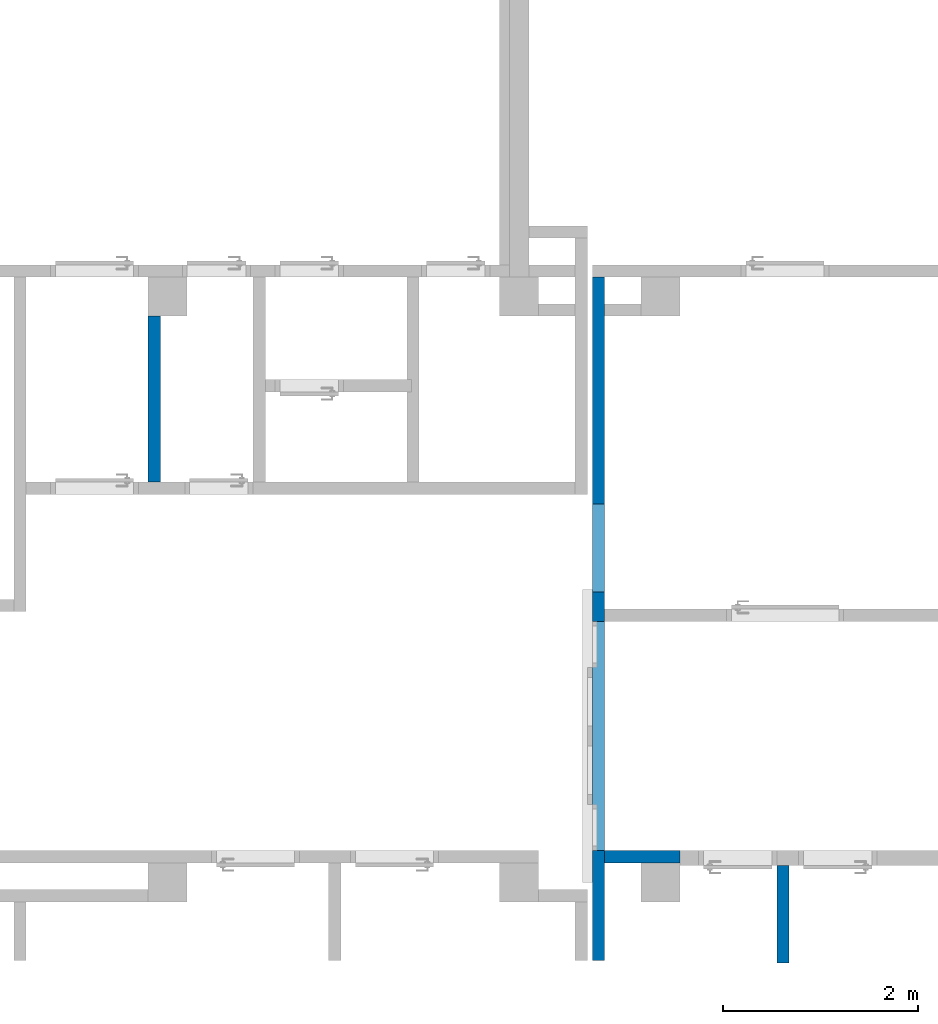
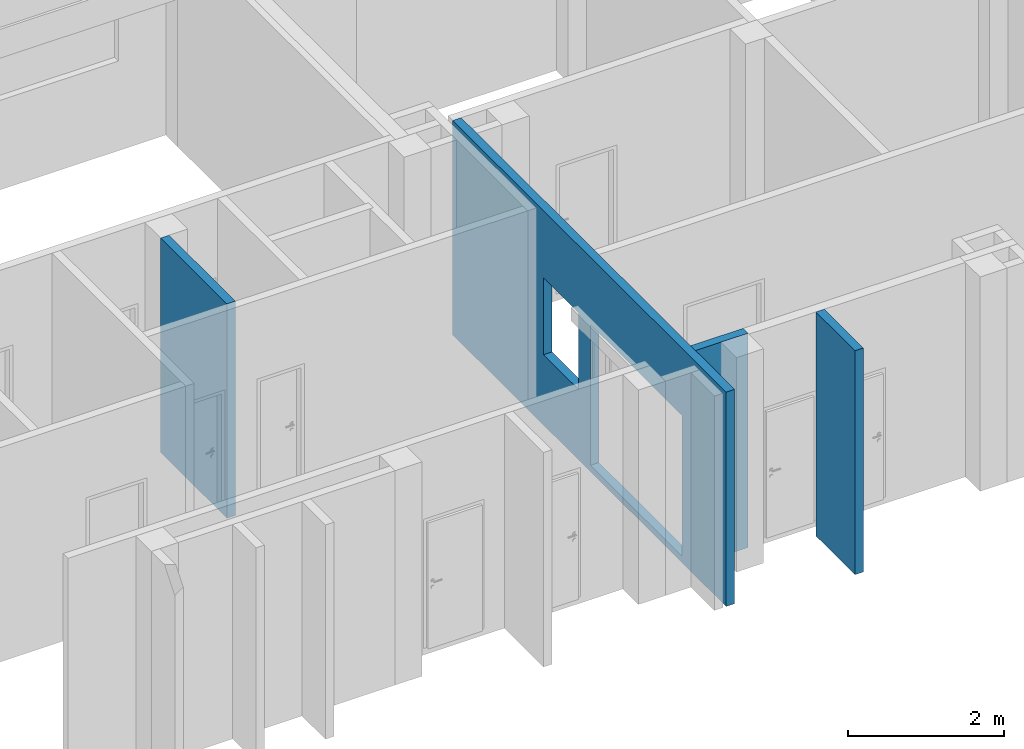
# One storey, part 13 of 37: 4 walls, 2 openings.
"""IFC4 building model written with IfcOpenShell, lengths in metres."""

from ifc_helpers import new_model, entity, si_unit, converted_unit, derived_unit, frame, frame_2d, origin, origin_with_axes, place, context, subcontext, project, spatial, polyline, rectangle, outline, extrude, material, layer, layer_set, layer_usage, element, save


model = new_model("IFC4")

# Units and contexts
model_context = context("Model", 3, precision=1e-05, world=origin())
body_context = subcontext(model_context, "Body", "Model", "MODEL_VIEW")
ifc_project = project(units=[si_unit("LENGTHUNIT", "METRE"), si_unit("AREAUNIT", "SQUARE_METRE"), si_unit("VOLUMEUNIT", "CUBIC_METRE"), si_unit("MASSUNIT", "GRAM", prefix="KILO"), converted_unit("PLANEANGLEUNIT", "DEGREE", entity("IfcPlaneAngleMeasure", 0.0174532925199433), si_unit("PLANEANGLEUNIT", "RADIAN"), dimensions=[0, 0, 0, 0, 0, 0, 0]), derived_unit("THERMALTRANSMITTANCEUNIT", [(si_unit("POWERUNIT", "WATT"), 1), (si_unit("THERMODYNAMICTEMPERATUREUNIT", "KELVIN"), -1), (si_unit("LENGTHUNIT", "METRE"), -2)]), derived_unit("VOLUMETRICFLOWRATEUNIT", [(si_unit("LENGTHUNIT", "METRE"), 3), (converted_unit("TIMEUNIT", "hour", entity("IfcTimeMeasure", 3600.0), si_unit("TIMEUNIT", "SECOND"), dimensions=[0, 0, 1, 0, 0, 0, 0]), -1), (si_unit("LENGTHUNIT", "METRE"), -1)])], contexts=[model_context])

# Site, building, storey
site_placement = place(None, origin())
site = spatial("IfcSite", under=ifc_project, at=site_placement, Name="3. ASŘ", CompositionType="ELEMENT")
building_placement = place(site_placement, origin())
building = spatial("IfcBuilding", under=site, at=building_placement, Name="Pavilon B", CompositionType="ELEMENT")
storey_placement = place(building_placement, origin())
storey = spatial("IfcBuildingStorey", under=building, at=storey_placement, Name="Půdorys 1.NP", CompositionType="ELEMENT", Elevation=0.0)

# Walls
ifc_material_1 = material(Name="ZDIVO Z CDm")
ifc_layer_1 = layer(ifc_material_1, 0.125)
ifc_layer_set_1 = layer_set([ifc_layer_1])
ifc_layer_usage_1 = layer_usage(ifc_layer_set_1, "AXIS2", "POSITIVE", 0.0)
wall_1_placement = place(storey_placement, frame((28.0, -21.8, -0.1), z_axis=(0.0, 0.0, 1.0), x_axis=(0.0, -1.0, 0.0)))
element("IfcWall", 1, at=wall_1_placement, inside=storey, material=ifc_layer_usage_1, Name="ZDIVO Z CDm", context=body_context, shape_type="SweptSolid", body=[
    extrude(rectangle(XDim=1.7, YDim=0.125, at=frame_2d((0.85, 0.0625), x_axis=(1.0, 0.0))), origin_with_axes(), (0.0, 0.0, 1.0), 3.35),
])
ifc_material_2 = material(Name="ZDIVO Z CDm")
ifc_layer_2 = layer(ifc_material_2, 0.125)
ifc_layer_set_2 = layer_set([ifc_layer_2])
ifc_layer_usage_2 = layer_usage(ifc_layer_set_2, "AXIS2", "POSITIVE", 0.0)
wall_2_placement = place(storey_placement, frame((32.675, -27.4, -0.1)))
element("IfcWall", 2, at=wall_2_placement, inside=storey, material=ifc_layer_usage_2, Name="ZDIVO Z CDm", context=body_context, shape_type="SweptSolid", body=[
    extrude(rectangle(XDim=0.775, YDim=0.125, at=frame_2d((0.3875, 0.0625), x_axis=(1.0, 0.0))), origin_with_axes(), (0.0, 0.0, 1.0), 3.35),
])
ifc_material_3 = material(Name="YTONG 125")
ifc_layer_3 = layer(ifc_material_3, 0.125)
ifc_layer_set_3 = layer_set([ifc_layer_3])
ifc_layer_usage_3 = layer_usage(ifc_layer_set_3, "AXIS2", "POSITIVE", 0.0)
wall_3_placement = place(storey_placement, frame((34.44, -27.425, -0.25), z_axis=(0.0, 0.0, 1.0), x_axis=(0.0, -1.0, 0.0)))
element("IfcWall", 3, at=wall_3_placement, inside=storey, material=ifc_layer_usage_3, Name="YTONG 125", context=body_context, shape_type="SweptSolid", body=[
    extrude(rectangle(XDim=1.0, YDim=0.125, at=frame_2d((0.5, 0.0625), x_axis=(1.0, 0.0))), origin_with_axes(), (0.0, 0.0, 1.0), 3.5),
])

# Wall, openings
ifc_material_4 = material(Name="ZDIVO Z CDm")
ifc_layer_4 = layer(ifc_material_4, 0.125)
ifc_layer_set_4 = layer_set([ifc_layer_4])
ifc_layer_usage_4 = layer_usage(ifc_layer_set_4, "AXIS2", "POSITIVE", 0.0)
wall_4_placement = place(storey_placement, frame((32.675, -28.4, -0.1), z_axis=(0.0, 0.0, 1.0), x_axis=(0.0, 1.0, 0.0)))
wall_4 = element("IfcWall", 4, at=wall_4_placement, inside=storey, material=ifc_layer_usage_4, Name="ZDIVO Z CDm", context=body_context, shape_type="SweptSolid", body=[
    extrude(rectangle(XDim=7.0, YDim=0.125, at=frame_2d((3.5, 0.0625), x_axis=(1.0, 0.0))), origin_with_axes(), (0.0, 0.0, 1.0), 3.35),
])
opening_1_placement = place(wall_4_placement, frame((4.675, 0.125, 1.1), z_axis=(0.0, -1.0, 0.0), x_axis=(0.0, 0.0, 1.0)))
element("IfcOpeningElement", 5, at=opening_1_placement, cuts=wall_4, Name="Okenní otvor", ObjectType="Opening", context=body_context, shape_type="SweptSolid", body=[
    extrude(outline(polyline([(0.0, 0.9), (1.2, 0.9), (1.2, 0.0), (0.0, 0.0), (0.0, 0.9)])), origin_with_axes(), (0.0, 0.0, 1.0), 0.125),
])
opening_2_placement = place(wall_4_placement, frame((3.47500000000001, 0.125, 0.1), z_axis=(0.0, -1.0, 0.0), x_axis=(0.0, 0.0, 1.0)))
element("IfcOpeningElement", 6, at=opening_2_placement, cuts=wall_4, Name="Dveřní otvor", ObjectType="Opening", context=body_context, shape_type="SweptSolid", body=[
    extrude(outline(polyline([(0.0, 2.35), (2.2, 2.35), (2.2, 0.0), (0.0, 0.0), (0.0, 2.35)])), origin_with_axes(), (0.0, 0.0, 1.0), 0.125),
])

save(model, "model.ifc")
